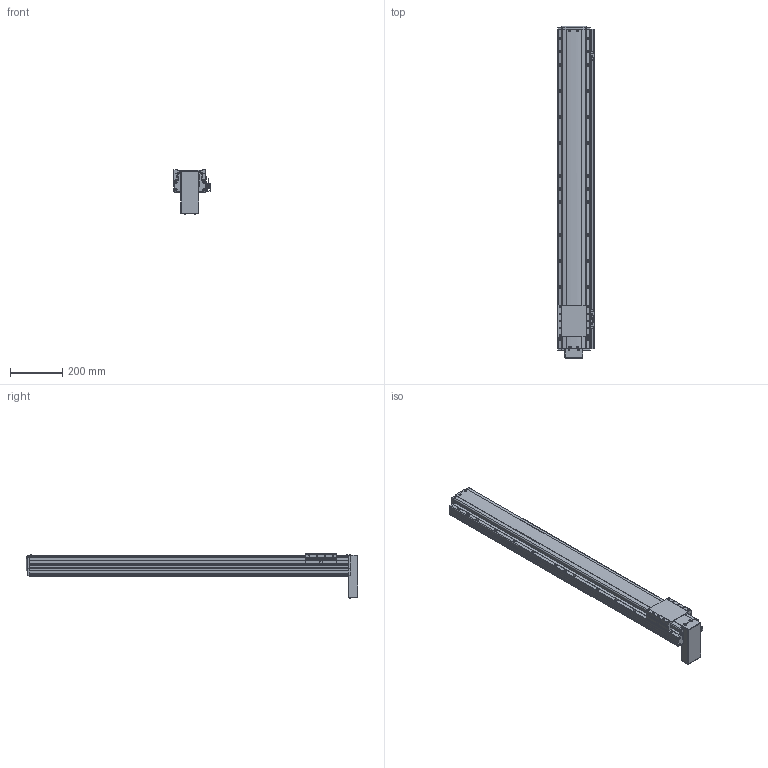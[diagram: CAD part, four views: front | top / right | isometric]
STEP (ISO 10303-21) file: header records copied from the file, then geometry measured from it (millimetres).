
FILE_DESCRIPTION(('STEP AP214'),'1');
FILE_NAME('Z:/Web/3D/PSA125/STP/PSA125-1000 (3D)/PSA125ㅁㅁ-1000PB+3SR.stp','2014-06-23T05:19:55',(' '),(' '),'Spatial InterOp 3D',' ',' ');
FILE_SCHEMA(('automotive_design'));
Length unit declared in the file: millimetre
Products named in the file (47): 스크루 : Round - M4.0 x 10.0; RRCV-PA120; SLIDE; BASE; FRCV-PA120-1(기준 뿔 제거); RR1500; 스크루 : Round - M4.0 x 6.0; 너트 : Square - M10.0 x 220.7419; 1; 2; 파트105; 스크루 : Round - M3.0 x 6.0; EE-SX674; SBK-SX674-352; M3.0 x 6.0; SRL-16x17-380L; SGD-PA95; 스크루 : Round - M3.0 x 8.0
Bounding box: 141 x 1268.6 x 169.06 mm (x, y, z)
Volume: 10819713 mm3; surface area: 987923.2 mm2
Topology: 47 solids, 47 shells, 2703 faces, 7167 edges, 4584 vertices
Faces by surface type: plane 1501, cylinder 776, cone 290, sphere 72, torus 33, bspline 31
Entity records: 107658 total; most frequent: CARTESIAN_POINT 17304, DIRECTION 14448, ORIENTED_EDGE 14026, EDGE_CURVE 7013, AXIS2_PLACEMENT_3D 4912, LINE 4624, VECTOR 4624, VERTEX_POINT 4584
